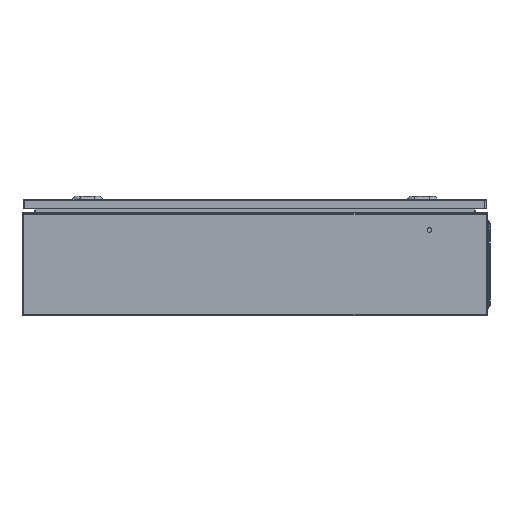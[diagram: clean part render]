
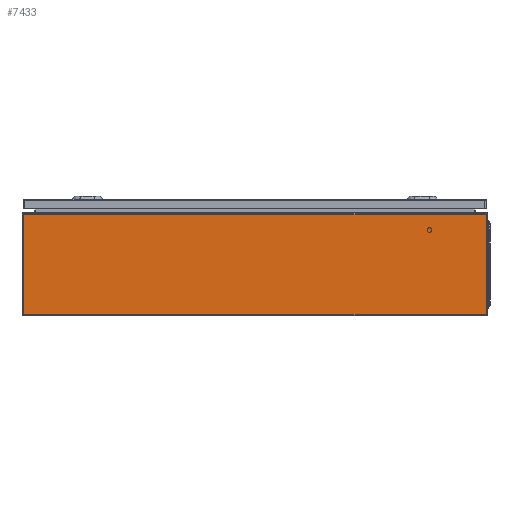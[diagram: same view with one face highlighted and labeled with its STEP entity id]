
A CAD part, left-side view. The second image highlights one B-rep face of the part: STEP entity #7433.
In plain terms, the highlighted planar face has unit normal (-1, 0, 0).
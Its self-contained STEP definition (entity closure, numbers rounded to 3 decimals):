
#1153 = CARTESIAN_POINT ( 'NONE',  ( -300., 397.5, 2.35 ) ) ;
#2908 = CARTESIAN_POINT ( 'NONE',  ( -300., -400., 1.5 ) ) ;
#3246 = ORIENTED_EDGE ( 'NONE', *, *, #25020, .T. ) ;
#3879 = VERTEX_POINT ( 'NONE', #13315 ) ;
#4610 = AXIS2_PLACEMENT_3D ( 'NONE', #2908, #20524, #10313 ) ;
#4873 = VERTEX_POINT ( 'NONE', #6387 ) ;
#5776 = LINE ( 'NONE', #13685, #13170 ) ;
#6387 = CARTESIAN_POINT ( 'NONE',  ( -300., -397.5, 2.35 ) ) ;
#7433 = ADVANCED_FACE ( 'NONE', ( #22467 ), #14830, .F. ) ;
#8084 = ORIENTED_EDGE ( 'NONE', *, *, #22474, .T. ) ;
#8421 = DIRECTION ( 'NONE',  ( 0., -1., 0. ) ) ;
#9421 = DIRECTION ( 'NONE',  ( 0., 0., 1. ) ) ;
#10313 = DIRECTION ( 'NONE',  ( 0., 0., -1. ) ) ;
#12595 = LINE ( 'NONE', #16601, #19495 ) ;
#12877 = VERTEX_POINT ( 'NONE', #21168 ) ;
#13170 = VECTOR ( 'NONE', #9421, 1000. ) ;
#13315 = CARTESIAN_POINT ( 'NONE',  ( -300., 397.5, 174.5 ) ) ;
#13685 = CARTESIAN_POINT ( 'NONE',  ( -300., -397.5, 1.5 ) ) ;
#13891 = EDGE_CURVE ( 'NONE', #3879, #12877, #14843, .T. ) ;
#14249 = CARTESIAN_POINT ( 'NONE',  ( -300., 400., 174.5 ) ) ;
#14540 = EDGE_LOOP ( 'NONE', ( #3246, #22662, #8084, #16081 ) ) ;
#14549 = VECTOR ( 'NONE', #23537, 1000. ) ;
#14830 = PLANE ( 'NONE',  #4610 ) ;
#14843 = LINE ( 'NONE', #14249, #15828 ) ;
#15828 = VECTOR ( 'NONE', #8421, 1000. ) ;
#16081 = ORIENTED_EDGE ( 'NONE', *, *, #13891, .F. ) ;
#16601 = CARTESIAN_POINT ( 'NONE',  ( -300., 397.5, 1.5 ) ) ;
#16800 = EDGE_CURVE ( 'NONE', #17391, #4873, #17703, .T. ) ;
#17391 = VERTEX_POINT ( 'NONE', #1153 ) ;
#17703 = LINE ( 'NONE', #25613, #14549 ) ;
#19495 = VECTOR ( 'NONE', #20487, 1000. ) ;
#20487 = DIRECTION ( 'NONE',  ( 0., 0., -1. ) ) ;
#20524 = DIRECTION ( 'NONE',  ( 1., 0., 0. ) ) ;
#21168 = CARTESIAN_POINT ( 'NONE',  ( -300., -397.5, 174.5 ) ) ;
#22467 = FACE_OUTER_BOUND ( 'NONE', #14540, .T. ) ;
#22474 = EDGE_CURVE ( 'NONE', #4873, #12877, #5776, .T. ) ;
#22662 = ORIENTED_EDGE ( 'NONE', *, *, #16800, .T. ) ;
#23537 = DIRECTION ( 'NONE',  ( 0., -1., 0. ) ) ;
#25020 = EDGE_CURVE ( 'NONE', #3879, #17391, #12595, .T. ) ;
#25613 = CARTESIAN_POINT ( 'NONE',  ( -300., -400., 2.35 ) ) ;
